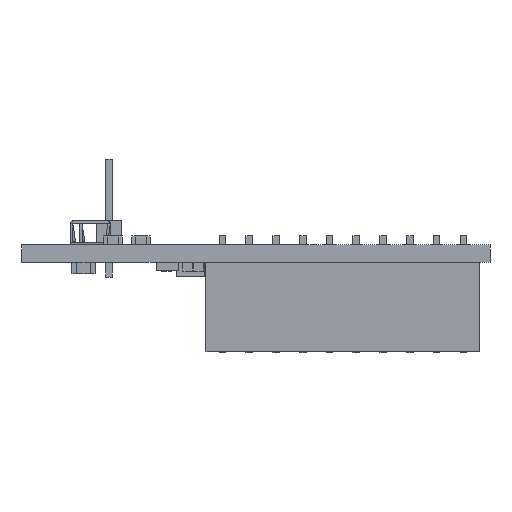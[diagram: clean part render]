
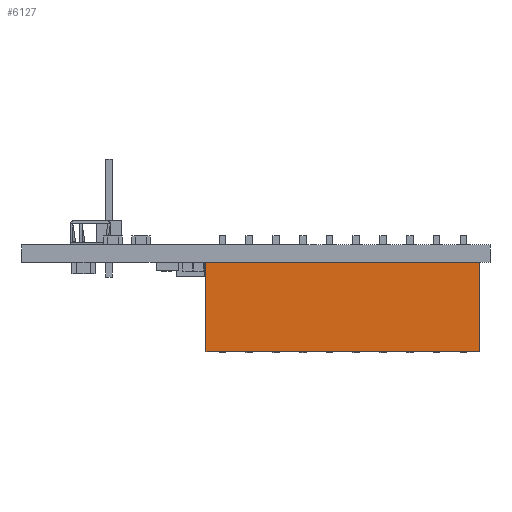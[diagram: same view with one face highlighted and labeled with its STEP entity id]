
A CAD part, left-side view. The second image highlights one B-rep face of the part: STEP entity #6127.
In plain terms, the highlighted planar face has unit normal (-1, 0, 0).
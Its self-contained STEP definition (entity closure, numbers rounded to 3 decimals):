
#6022 = PLANE('',#6023);
#6023 = AXIS2_PLACEMENT_3D('',#6024,#6025,#6026);
#6024 = CARTESIAN_POINT('',(1.269,13.004,0.));
#6025 = DIRECTION('',(0.,-1.,0.));
#6026 = DIRECTION('',(-1.,0.,0.));
#6047 = VERTEX_POINT('',#6048);
#6048 = CARTESIAN_POINT('',(-1.269,13.004,8.51));
#6062 = PLANE('',#6063);
#6063 = AXIS2_PLACEMENT_3D('',#6064,#6065,#6066);
#6064 = CARTESIAN_POINT('',(1.269,13.004,8.51));
#6065 = DIRECTION('',(0.,0.,-1.));
#6066 = DIRECTION('',(-1.,0.,0.));
#6074 = EDGE_CURVE('',#6075,#6047,#6077,.T.);
#6075 = VERTEX_POINT('',#6076);
#6076 = CARTESIAN_POINT('',(-1.269,13.004,0.));
#6077 = SURFACE_CURVE('',#6078,(#6082,#6089),.PCURVE_S1.);
#6078 = LINE('',#6079,#6080);
#6079 = CARTESIAN_POINT('',(-1.269,13.004,0.));
#6080 = VECTOR('',#6081,1.);
#6081 = DIRECTION('',(0.,0.,1.));
#6082 = PCURVE('',#6022,#6083);
#6083 = DEFINITIONAL_REPRESENTATION('',(#6084),#6088);
#6084 = LINE('',#6085,#6086);
#6085 = CARTESIAN_POINT('',(2.538,0.));
#6086 = VECTOR('',#6087,1.);
#6087 = DIRECTION('',(0.,-1.));
#6088 = ( GEOMETRIC_REPRESENTATION_CONTEXT(2) 
PARAMETRIC_REPRESENTATION_CONTEXT() REPRESENTATION_CONTEXT('2D SPACE',''
  ) );
#6089 = PCURVE('',#6090,#6095);
#6090 = PLANE('',#6091);
#6091 = AXIS2_PLACEMENT_3D('',#6092,#6093,#6094);
#6092 = CARTESIAN_POINT('',(-1.269,13.004,0.));
#6093 = DIRECTION('',(1.,0.,0.));
#6094 = DIRECTION('',(0.,-1.,0.));
#6095 = DEFINITIONAL_REPRESENTATION('',(#6096),#6100);
#6096 = LINE('',#6097,#6098);
#6097 = CARTESIAN_POINT('',(0.,0.));
#6098 = VECTOR('',#6099,1.);
#6099 = DIRECTION('',(0.,-1.));
#6100 = ( GEOMETRIC_REPRESENTATION_CONTEXT(2) 
PARAMETRIC_REPRESENTATION_CONTEXT() REPRESENTATION_CONTEXT('2D SPACE',''
  ) );
#6116 = PLANE('',#6117);
#6117 = AXIS2_PLACEMENT_3D('',#6118,#6119,#6120);
#6118 = CARTESIAN_POINT('',(1.269,13.004,0.));
#6119 = DIRECTION('',(0.,0.,-1.));
#6120 = DIRECTION('',(-1.,0.,0.));
#6127 = ADVANCED_FACE('',(#6128),#6090,.F.);
#6128 = FACE_BOUND('',#6129,.F.);
#6129 = EDGE_LOOP('',(#6130,#6131,#6154,#6182));
#6130 = ORIENTED_EDGE('',*,*,#6074,.T.);
#6131 = ORIENTED_EDGE('',*,*,#6132,.T.);
#6132 = EDGE_CURVE('',#6047,#6133,#6135,.T.);
#6133 = VERTEX_POINT('',#6134);
#6134 = CARTESIAN_POINT('',(-1.269,-13.004,8.51));
#6135 = SURFACE_CURVE('',#6136,(#6140,#6147),.PCURVE_S1.);
#6136 = LINE('',#6137,#6138);
#6137 = CARTESIAN_POINT('',(-1.269,13.004,8.51));
#6138 = VECTOR('',#6139,1.);
#6139 = DIRECTION('',(0.,-1.,0.));
#6140 = PCURVE('',#6090,#6141);
#6141 = DEFINITIONAL_REPRESENTATION('',(#6142),#6146);
#6142 = LINE('',#6143,#6144);
#6143 = CARTESIAN_POINT('',(0.,-8.51));
#6144 = VECTOR('',#6145,1.);
#6145 = DIRECTION('',(1.,0.));
#6146 = ( GEOMETRIC_REPRESENTATION_CONTEXT(2) 
PARAMETRIC_REPRESENTATION_CONTEXT() REPRESENTATION_CONTEXT('2D SPACE',''
  ) );
#6147 = PCURVE('',#6062,#6148);
#6148 = DEFINITIONAL_REPRESENTATION('',(#6149),#6153);
#6149 = LINE('',#6150,#6151);
#6150 = CARTESIAN_POINT('',(2.538,0.));
#6151 = VECTOR('',#6152,1.);
#6152 = DIRECTION('',(0.,-1.));
#6153 = ( GEOMETRIC_REPRESENTATION_CONTEXT(2) 
PARAMETRIC_REPRESENTATION_CONTEXT() REPRESENTATION_CONTEXT('2D SPACE',''
  ) );
#6154 = ORIENTED_EDGE('',*,*,#6155,.F.);
#6155 = EDGE_CURVE('',#6156,#6133,#6158,.T.);
#6156 = VERTEX_POINT('',#6157);
#6157 = CARTESIAN_POINT('',(-1.269,-13.004,0.));
#6158 = SURFACE_CURVE('',#6159,(#6163,#6170),.PCURVE_S1.);
#6159 = LINE('',#6160,#6161);
#6160 = CARTESIAN_POINT('',(-1.269,-13.004,0.));
#6161 = VECTOR('',#6162,1.);
#6162 = DIRECTION('',(0.,0.,1.));
#6163 = PCURVE('',#6090,#6164);
#6164 = DEFINITIONAL_REPRESENTATION('',(#6165),#6169);
#6165 = LINE('',#6166,#6167);
#6166 = CARTESIAN_POINT('',(26.008,0.));
#6167 = VECTOR('',#6168,1.);
#6168 = DIRECTION('',(0.,-1.));
#6169 = ( GEOMETRIC_REPRESENTATION_CONTEXT(2) 
PARAMETRIC_REPRESENTATION_CONTEXT() REPRESENTATION_CONTEXT('2D SPACE',''
  ) );
#6170 = PCURVE('',#6171,#6176);
#6171 = PLANE('',#6172);
#6172 = AXIS2_PLACEMENT_3D('',#6173,#6174,#6175);
#6173 = CARTESIAN_POINT('',(-1.269,-13.004,0.));
#6174 = DIRECTION('',(0.,1.,0.));
#6175 = DIRECTION('',(1.,0.,0.));
#6176 = DEFINITIONAL_REPRESENTATION('',(#6177),#6181);
#6177 = LINE('',#6178,#6179);
#6178 = CARTESIAN_POINT('',(0.,0.));
#6179 = VECTOR('',#6180,1.);
#6180 = DIRECTION('',(0.,-1.));
#6181 = ( GEOMETRIC_REPRESENTATION_CONTEXT(2) 
PARAMETRIC_REPRESENTATION_CONTEXT() REPRESENTATION_CONTEXT('2D SPACE',''
  ) );
#6182 = ORIENTED_EDGE('',*,*,#6183,.F.);
#6183 = EDGE_CURVE('',#6075,#6156,#6184,.T.);
#6184 = SURFACE_CURVE('',#6185,(#6189,#6196),.PCURVE_S1.);
#6185 = LINE('',#6186,#6187);
#6186 = CARTESIAN_POINT('',(-1.269,13.004,0.));
#6187 = VECTOR('',#6188,1.);
#6188 = DIRECTION('',(0.,-1.,0.));
#6189 = PCURVE('',#6090,#6190);
#6190 = DEFINITIONAL_REPRESENTATION('',(#6191),#6195);
#6191 = LINE('',#6192,#6193);
#6192 = CARTESIAN_POINT('',(0.,0.));
#6193 = VECTOR('',#6194,1.);
#6194 = DIRECTION('',(1.,0.));
#6195 = ( GEOMETRIC_REPRESENTATION_CONTEXT(2) 
PARAMETRIC_REPRESENTATION_CONTEXT() REPRESENTATION_CONTEXT('2D SPACE',''
  ) );
#6196 = PCURVE('',#6116,#6197);
#6197 = DEFINITIONAL_REPRESENTATION('',(#6198),#6202);
#6198 = LINE('',#6199,#6200);
#6199 = CARTESIAN_POINT('',(2.538,0.));
#6200 = VECTOR('',#6201,1.);
#6201 = DIRECTION('',(0.,-1.));
#6202 = ( GEOMETRIC_REPRESENTATION_CONTEXT(2) 
PARAMETRIC_REPRESENTATION_CONTEXT() REPRESENTATION_CONTEXT('2D SPACE',''
  ) );
